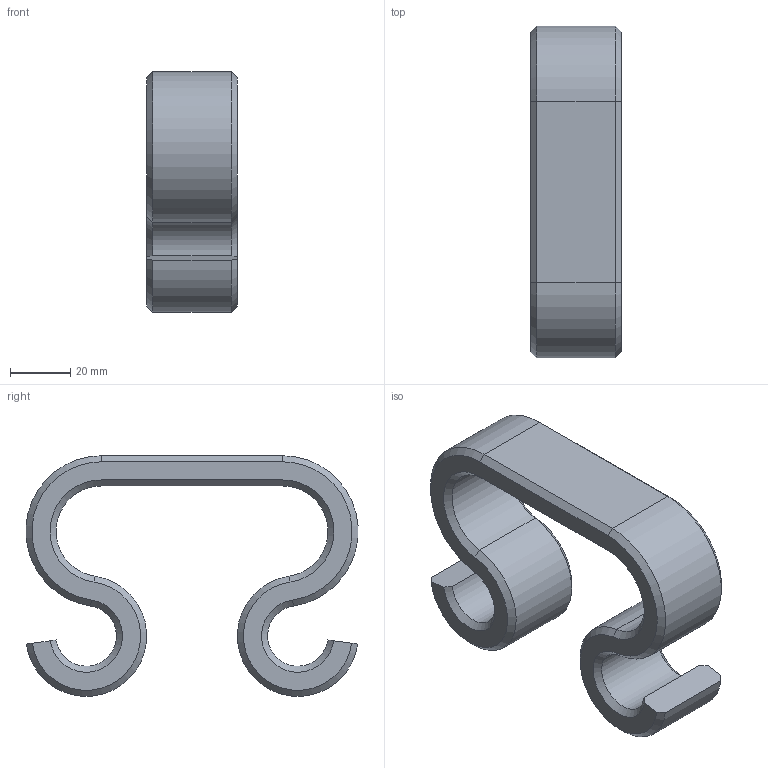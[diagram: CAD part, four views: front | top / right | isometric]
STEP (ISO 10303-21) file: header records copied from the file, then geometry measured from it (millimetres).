
FILE_DESCRIPTION(/* description */ (''),/* implementation_level */ '2;1');
FILE_NAME(/* name */ 'bag_handle_2_plaska v5.step',/* time_stamp */ '2026-04-10T14:25:52+02:00',/* author */ (''),/* organization */ (''),/* preprocessor_version */ 'ST-DEVELOPER v20.1',/* originating_system */ 'Autodesk Translation Framework v14.24.0.0',/* authorisation */ '');
FILE_SCHEMA (('AUTOMOTIVE_DESIGN { 1 0 10303 214 3 1 1 }'));
Length unit declared in the file: millimetre
Products named in the file (1): (Niezapisany)
Bounding box: 30 x 109.87 x 79.59 mm (x, y, z)
Volume: 91392.8 mm3; surface area: 24156.4 mm2
Topology: 1 solids, 1 shells, 34 faces, 80 edges, 48 vertices
Faces by surface type: cone 16, plane 10, cylinder 8
Entity records: 1001 total; most frequent: DIRECTION 182, CARTESIAN_POINT 163, ORIENTED_EDGE 160, EDGE_CURVE 80, AXIS2_PLACEMENT_3D 67, LINE 48, VECTOR 48, VERTEX_POINT 48
